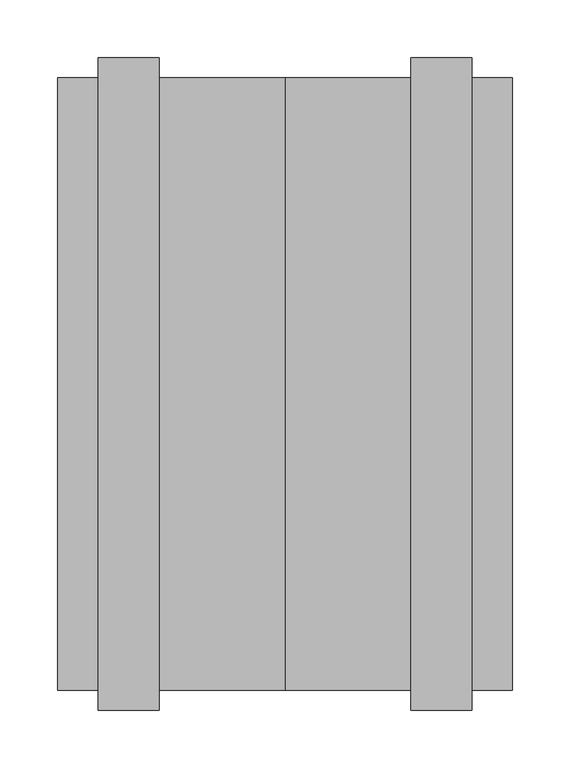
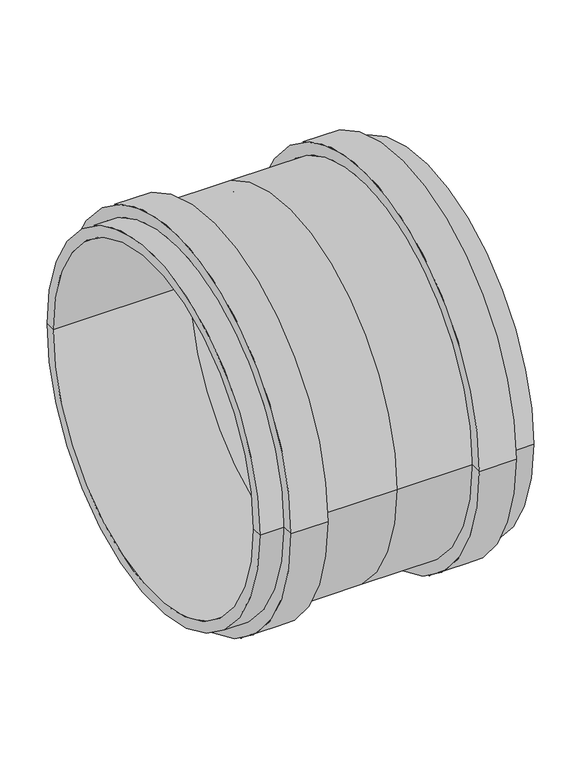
"""IFC4 building model written with IfcOpenShell, lengths in millimetres: pipe fitting geometry, OSMA_KG2000_PPKGU : Přesuvka."""

from ifc_helpers import new_model, si_unit, frame, origin, place, context, project, spatial, polyline, circle_curve, source, transform, mapped, element, save
from ifc_brep_helpers import plane_surface, cylinder_surface, revolved_surface, advanced_brep


def pipe_fitting_8948af7e(model_context):
    return source(origin(), model_context, "Body", "AdvancedBrep", [
        advanced_brep(
        [(-197.0, -250.0, 0.0), (-197.0, 250.0, 0.0), (-197.0, 265.3, 0.0), (-197.0, -265.3, 0.0), (-109.0, -282.5, 0.0), (-109.0, 282.5, 0.0), (-109.0, 265.3, 0.0), (-109.0, -265.3, 0.0), (-162.0, -282.5, 0.0), (-162.0, 282.5, 0.0), (-162.0, -265.3, 0.0), (-162.0, 265.3, 0.0), (0.0, 265.3, 0.0), (0.0, -265.3, 0.0), (162.0, -282.5, 0.0), (162.0, 282.5, 0.0), (162.0, 265.3, 0.0), (162.0, -265.3, 0.0), (109.0, -282.5, 0.0), (109.0, 282.5, 0.0), (109.0, -265.3, 0.0), (109.0, 265.3, 0.0), (197.0, 265.3, 0.0), (197.0, -265.3, 0.0), (197.0, 250.0, 0.0), (197.0, -250.0, 0.0), (0.0, -250.0, 0.0), (0.0, 250.0, 0.0)],
        [
            (0, 1, circle_curve(frame((-197.0, 0.0, 0.0), z_axis=(1.0, 0.0, 0.0), x_axis=(0.0, 1.0, 0.0)), 250.0)),
            (1, 2),
            (2, 3, circle_curve(frame((-197.0, 0.0, 0.0), z_axis=(-1.0, 0.0, 0.0), x_axis=(0.0, 1.0, 0.0)), 265.3)),
            (3, 0),
            (1, 0, circle_curve(frame((-197.0, 0.0, 0.0), z_axis=(1.0, 0.0, 0.0), x_axis=(0.0, 1.0, 0.0)), 250.0)),
            (3, 2, circle_curve(frame((-197.0, 0.0, 0.0), z_axis=(-1.0, 0.0, 0.0), x_axis=(0.0, 1.0, 0.0)), 265.3)),
            (4, 5, circle_curve(frame((-109.0, 0.0, 0.0), z_axis=(1.0, 0.0, 0.0), x_axis=(0.0, 1.0, 0.0)), 282.5)),
            (5, 6),
            (6, 7, circle_curve(frame((-109.0, 0.0, 0.0), z_axis=(-1.0, 0.0, 0.0), x_axis=(0.0, 1.0, 0.0)), 265.3)),
            (7, 4),
            (5, 4, circle_curve(frame((-109.0, 0.0, 0.0), z_axis=(1.0, 0.0, 0.0), x_axis=(0.0, 1.0, 0.0)), 282.5)),
            (7, 6, circle_curve(frame((-109.0, 0.0, 0.0), z_axis=(-1.0, 0.0, 0.0), x_axis=(0.0, 1.0, 0.0)), 265.3)),
            (4, 8),
            (8, 9, circle_curve(frame((-162.0, 0.0, 0.0), z_axis=(1.0, 0.0, 0.0), x_axis=(0.0, 1.0, 0.0)), 282.5)),
            (9, 5),
            (9, 8, circle_curve(frame((-162.0, 0.0, 0.0), z_axis=(1.0, 0.0, 0.0), x_axis=(0.0, 1.0, 0.0)), 282.5)),
            (8, 10),
            (10, 11, circle_curve(frame((-162.0, 0.0, 0.0), z_axis=(1.0, 0.0, 0.0), x_axis=(0.0, 1.0, 0.0)), 265.3)),
            (11, 9),
            (11, 10, circle_curve(frame((-162.0, 0.0, 0.0), z_axis=(1.0, 0.0, 0.0), x_axis=(0.0, 1.0, 0.0)), 265.3)),
            (2, 11),
            (10, 3),
            (6, 12),
            (12, 13, circle_curve(frame((0.0, 0.0, 0.0), z_axis=(-1.0, 0.0, 0.0), x_axis=(0.0, 1.0, 0.0)), 265.3)),
            (13, 7),
            (13, 12, circle_curve(frame((0.0, 0.0, 0.0), z_axis=(-1.0, 0.0, 0.0), x_axis=(0.0, 1.0, 0.0)), 265.3)),
            (14, 15, circle_curve(frame((162.0, 0.0, 0.0), z_axis=(1.0, 0.0, 0.0), x_axis=(0.0, 1.0, 0.0)), 282.5)),
            (15, 16),
            (16, 17, circle_curve(frame((162.0, 0.0, 0.0), z_axis=(-1.0, 0.0, 0.0), x_axis=(0.0, 1.0, 0.0)), 265.3)),
            (17, 14),
            (15, 14, circle_curve(frame((162.0, 0.0, 0.0), z_axis=(1.0, 0.0, 0.0), x_axis=(0.0, 1.0, 0.0)), 282.5)),
            (17, 16, circle_curve(frame((162.0, 0.0, 0.0), z_axis=(-1.0, 0.0, 0.0), x_axis=(0.0, 1.0, 0.0)), 265.3)),
            (14, 18),
            (18, 19, circle_curve(frame((109.0, 0.0, 0.0), z_axis=(1.0, 0.0, 0.0), x_axis=(0.0, 1.0, 0.0)), 282.5)),
            (19, 15),
            (19, 18, circle_curve(frame((109.0, 0.0, 0.0), z_axis=(1.0, 0.0, 0.0), x_axis=(0.0, 1.0, 0.0)), 282.5)),
            (18, 20),
            (20, 21, circle_curve(frame((109.0, 0.0, 0.0), z_axis=(1.0, 0.0, 0.0), x_axis=(0.0, 1.0, 0.0)), 265.3)),
            (21, 19),
            (21, 20, circle_curve(frame((109.0, 0.0, 0.0), z_axis=(1.0, 0.0, 0.0), x_axis=(0.0, 1.0, 0.0)), 265.3)),
            (20, 13),
            (12, 21),
            (16, 22),
            (22, 23, circle_curve(frame((197.0, 0.0, 0.0), z_axis=(-1.0, 0.0, 0.0), x_axis=(0.0, 1.0, 0.0)), 265.3)),
            (23, 17),
            (23, 22, circle_curve(frame((197.0, 0.0, 0.0), z_axis=(-1.0, 0.0, 0.0), x_axis=(0.0, 1.0, 0.0)), 265.3)),
            (22, 24),
            (24, 25, circle_curve(frame((197.0, 0.0, 0.0), z_axis=(-1.0, 0.0, 0.0), x_axis=(0.0, 1.0, 0.0)), 250.0)),
            (25, 23),
            (25, 24, circle_curve(frame((197.0, 0.0, 0.0), z_axis=(-1.0, 0.0, 0.0), x_axis=(0.0, 1.0, 0.0)), 250.0)),
            (0, 26),
            (26, 27, circle_curve(frame((0.0, 0.0, 0.0), z_axis=(1.0, 0.0, 0.0), x_axis=(0.0, 1.0, 0.0)), 250.0)),
            (27, 1),
            (27, 26, circle_curve(frame((0.0, 0.0, 0.0), z_axis=(1.0, 0.0, 0.0), x_axis=(0.0, 1.0, 0.0)), 250.0)),
            (24, 27),
            (26, 25),
        ],
        [
            plane_surface(frame((-197.0, 0.0, 0.0), z_axis=(-1.0, 0.0, 0.0), x_axis=(0.0, 1.0, 0.0))),
            plane_surface(frame((-109.0, 0.0, 0.0), z_axis=(1.0, 0.0, 0.0), x_axis=(0.0, 1.0, 0.0))),
            cylinder_surface(frame((397.5, 0.0, 0.0), z_axis=(-1.0, 0.0, 0.0), x_axis=(0.0, 1.0, 0.0)), 282.5),
            plane_surface(frame((-162.0, 0.0, 0.0), z_axis=(-1.0, 0.0, 0.0), x_axis=(0.0, 1.0, 0.0))),
            cylinder_surface(frame((397.5, 0.0, 0.0), z_axis=(-1.0, 0.0, 0.0), x_axis=(0.0, 1.0, 0.0)), 265.3),
            plane_surface(frame((162.0, 0.0, 0.0), z_axis=(1.0, 0.0, 0.0), x_axis=(0.0, 1.0, 0.0))),
            plane_surface(frame((109.0, 0.0, 0.0), z_axis=(-1.0, 0.0, 0.0), x_axis=(0.0, 1.0, 0.0))),
            plane_surface(frame((197.0, 0.0, 0.0), z_axis=(1.0, 0.0, 0.0), x_axis=(0.0, 1.0, 0.0))),
            revolved_surface(polyline([(-197.0, 250.0, 0.0), (0.0, 250.0, 0.0)]), (397.5, 0.0, 0.0), (-1.0, 0.0, 0.0)),
            revolved_surface(polyline([(0.0, 250.0, 0.0), (197.0, 250.0, 0.0)]), (397.5, 0.0, 0.0), (-1.0, 0.0, 0.0)),
        ],
        [
            (0, [[1, 2, 3, 4]]),
            (0, [[-2, 5, -4, 6]]),
            (1, [[7, 8, 9, 10]]),
            (1, [[-8, 11, -10, 12]]),
            (2, [[-7, 13, 14, 15]]),
            (2, [[-11, -15, 16, -13]]),
            (3, [[-14, 17, 18, 19]]),
            (3, [[-16, -19, 20, -17]]),
            (4, [[-3, 21, -18, 22]]),
            (4, [[-6, -22, -20, -21]]),
            (4, [[-9, 23, 24, 25]]),
            (4, [[-12, -25, 26, -23]]),
            (5, [[27, 28, 29, 30]]),
            (5, [[-28, 31, -30, 32]]),
            (2, [[-27, 33, 34, 35]]),
            (2, [[-31, -35, 36, -33]]),
            (6, [[-34, 37, 38, 39]]),
            (6, [[-36, -39, 40, -37]]),
            (4, [[-38, 41, -24, 42]]),
            (4, [[-40, -42, -26, -41]]),
            (4, [[-29, 43, 44, 45]]),
            (4, [[-32, -45, 46, -43]]),
            (7, [[-44, 47, 48, 49]]),
            (7, [[-46, -49, 50, -47]]),
            (8, [[-1, 51, 52, 53]]),
            (8, [[-5, -53, 54, -51]]),
            (9, [[-48, 55, -52, 56]]),
            (9, [[-50, -56, -54, -55]]),
        ],
    ),
    ])


if __name__ == "__main__":
    model = new_model("IFC4")
    model_context = context("Model", 3, world=origin())
    ifc_project = project(units=[si_unit("LENGTHUNIT", "METRE", prefix="MILLI")], contexts=[model_context])
    site = spatial("IfcSite", under=ifc_project)
    building = spatial("IfcBuilding", under=site)
    placement = place(None, origin())
    pipe_fitting_shape = pipe_fitting_8948af7e(model_context)
    element("IfcPipeFitting", 1, ObjectType="OSMA_KG2000_PPKGU : Přesuvka", at=placement, inside=building, context=model_context, shape_type="MappedRepresentation", body=[
        mapped(pipe_fitting_shape, transform((0.0, 0.0, 0.0), x_axis=(1.0, 0.0, 0.0), y_axis=(0.0, 1.0, 0.0), z_axis=(0.0, 0.0, 1.0))),
    ])
    save(model, "model.ifc")
